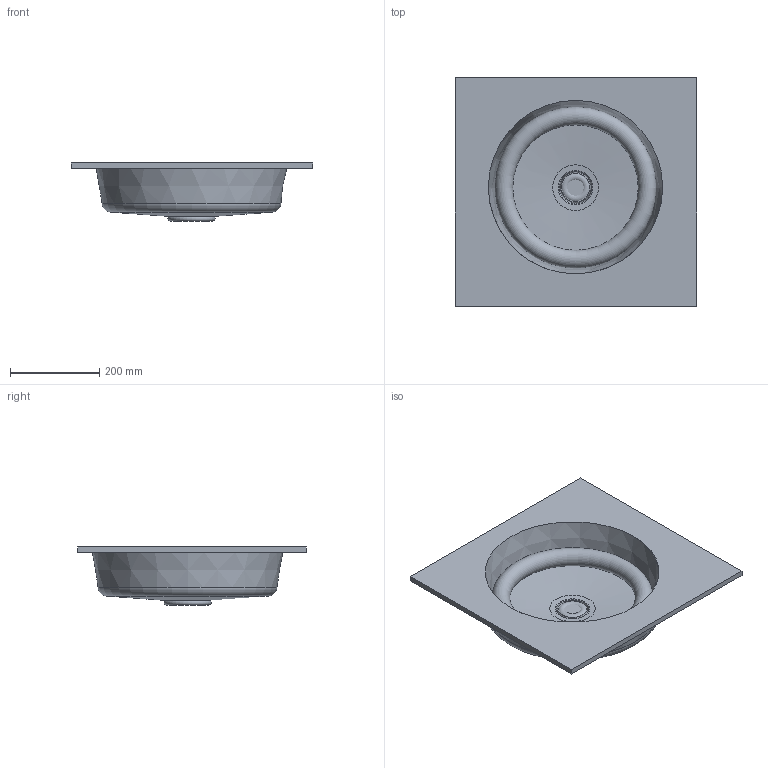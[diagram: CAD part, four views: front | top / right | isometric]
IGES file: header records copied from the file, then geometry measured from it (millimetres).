
Start section: Data from Parasolid IGES Translator 22.0.50, Copyright(c) 2006 Siemens P LM Software. All Rights Reserved.
Global section: file name: noorth-top-H 1,2 D 51,3 W 72_5298.igs; native system: By Siemens PLM Incorporated; preprocessor: XPlus GENERIC/IGES 22.0.50; author: Noname; organization: Noname; date: 20251104.212410; units: metre
Bounding box: 540 x 510 x 129.79 mm (x, y, z)
Volume: 7767385.8 mm3; surface area: 855700.4 mm2
Topology: 3 solids, 3 shells, 37 faces, 67 edges, 40 vertices
Faces by surface type: plane 14, cone 11, cylinder 7, torus 5
Full cylindrical faces by diameter (mm): 4 x2, 34 x2, 46 x1, 64 x1
